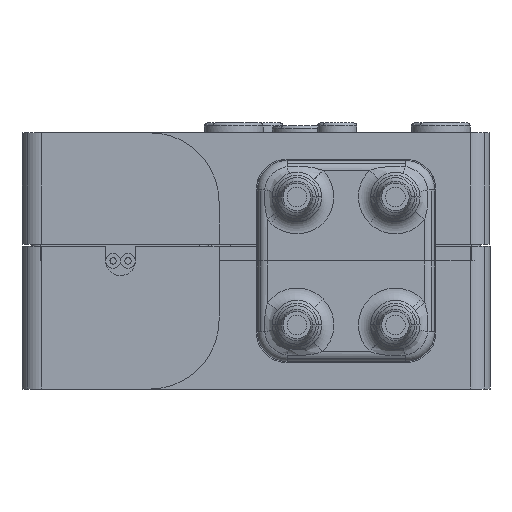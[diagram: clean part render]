
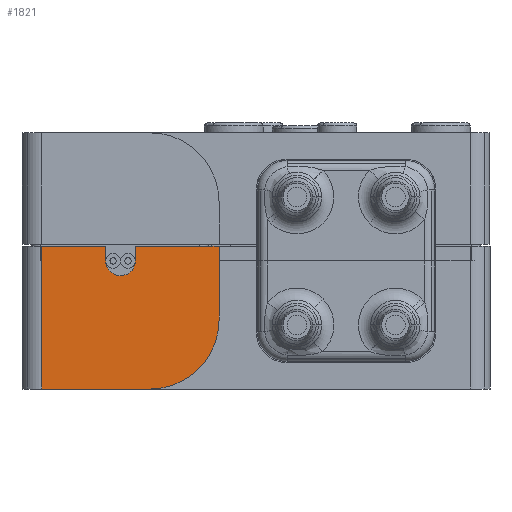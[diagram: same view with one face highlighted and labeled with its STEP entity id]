
A CAD part, front view. The second image highlights one B-rep face of the part: STEP entity #1821.
In plain terms, the highlighted planar face has unit normal (0, -1, 0).
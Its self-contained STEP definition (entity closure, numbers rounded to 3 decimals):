
#55 = CARTESIAN_POINT ( 'NONE',  ( -18.5, -55., 13. ) ) ;
#230 = VECTOR ( 'NONE', #9115, 1000. ) ;
#383 = DIRECTION ( 'NONE',  ( 1., 0., 0. ) ) ;
#742 = CARTESIAN_POINT ( 'NONE',  ( -17., -55., 7.25 ) ) ;
#826 = LINE ( 'NONE', #15376, #9406 ) ;
#1145 = DIRECTION ( 'NONE',  ( 0.707, 0., -0.707 ) ) ;
#1236 = CARTESIAN_POINT ( 'NONE',  ( -20., -55., 7.25 ) ) ;
#1270 = DIRECTION ( 'NONE',  ( 0.707, 0., 0.707 ) ) ;
#1319 = CIRCLE ( 'NONE', #11006, 1.5 ) ;
#1390 = VERTEX_POINT ( 'NONE', #10911 ) ;
#1529 = DIRECTION ( 'NONE',  ( 0., -1., 0. ) ) ;
#1726 = EDGE_CURVE ( 'NONE', #5707, #12605, #6662, .T. ) ;
#1821 = ADVANCED_FACE ( 'NONE', ( #12017 ), #2567, .T. ) ;
#2038 = DIRECTION ( 'NONE',  ( 0., 0., 1. ) ) ;
#2095 = DIRECTION ( 'NONE',  ( 0., 1., 0. ) ) ;
#2278 = EDGE_CURVE ( 'NONE', #16458, #12625, #13547, .T. ) ;
#2436 = LINE ( 'NONE', #1236, #10956 ) ;
#2454 = VECTOR ( 'NONE', #12752, 1000. ) ;
#2458 = EDGE_CURVE ( 'NONE', #1390, #5658, #12707, .T. ) ;
#2492 = EDGE_CURVE ( 'NONE', #5658, #9924, #9686, .T. ) ;
#2542 = VERTEX_POINT ( 'NONE', #15790 ) ;
#2567 = PLANE ( 'NONE',  #15779 ) ;
#3010 = VERTEX_POINT ( 'NONE', #8303 ) ;
#3240 = CARTESIAN_POINT ( 'NONE',  ( -20., -55., 13. ) ) ;
#3329 = EDGE_CURVE ( 'NONE', #12605, #3010, #1319, .T. ) ;
#3438 = CARTESIAN_POINT ( 'NONE',  ( -19.561, -55., 11.939 ) ) ;
#3473 = DIRECTION ( 'NONE',  ( -1., 0., 0. ) ) ;
#3683 = CARTESIAN_POINT ( 'NONE',  ( -18.5, -55., 13. ) ) ;
#3859 = DIRECTION ( 'NONE',  ( 0., -1., 0. ) ) ;
#4780 = LINE ( 'NONE', #11367, #230 ) ;
#5658 = VERTEX_POINT ( 'NONE', #13878 ) ;
#5707 = VERTEX_POINT ( 'NONE', #3240 ) ;
#5845 = CARTESIAN_POINT ( 'NONE',  ( -28.5, -55., 14.5 ) ) ;
#5847 = EDGE_LOOP ( 'NONE', ( #15248, #13874, #9054, #10472, #11356, #16800, #16467, #8439, #7278, #10578, #15149 ) ) ;
#6133 = LINE ( 'NONE', #742, #13091 ) ;
#6662 = CIRCLE ( 'NONE', #14945, 1.5 ) ;
#7215 = LINE ( 'NONE', #11189, #17040 ) ;
#7278 = ORIENTED_EDGE ( 'NONE', *, *, #1726, .F. ) ;
#7382 = EDGE_CURVE ( 'NONE', #9221, #11024, #4780, .T. ) ;
#7489 = EDGE_CURVE ( 'NONE', #2542, #16458, #15608, .T. ) ;
#7567 = DIRECTION ( 'NONE',  ( 0.707, 0., -0.707 ) ) ;
#7599 = CARTESIAN_POINT ( 'NONE',  ( -26.5, -55., 14.5 ) ) ;
#7612 = CARTESIAN_POINT ( 'NONE',  ( -20., -55., 14.5 ) ) ;
#8303 = CARTESIAN_POINT ( 'NONE',  ( -17., -55., 13. ) ) ;
#8439 = ORIENTED_EDGE ( 'NONE', *, *, #3329, .F. ) ;
#8566 = AXIS2_PLACEMENT_3D ( 'NONE', #16920, #2095, #7567 ) ;
#8982 = DIRECTION ( 'NONE',  ( -0.707, 0., -0.707 ) ) ;
#9054 = ORIENTED_EDGE ( 'NONE', *, *, #2492, .F. ) ;
#9115 = DIRECTION ( 'NONE',  ( 1., 0., 0. ) ) ;
#9221 = VERTEX_POINT ( 'NONE', #13371 ) ;
#9406 = VECTOR ( 'NONE', #2038, 1000. ) ;
#9686 = CIRCLE ( 'NONE', #10246, 7. ) ;
#9850 = CARTESIAN_POINT ( 'NONE',  ( -15.5, -55., 0. ) ) ;
#9924 = VERTEX_POINT ( 'NONE', #9850 ) ;
#10246 = AXIS2_PLACEMENT_3D ( 'NONE', #10509, #13023, #1145 ) ;
#10472 = ORIENTED_EDGE ( 'NONE', *, *, #2458, .F. ) ;
#10509 = CARTESIAN_POINT ( 'NONE',  ( -15.5, -55., 7. ) ) ;
#10578 = ORIENTED_EDGE ( 'NONE', *, *, #10683, .T. ) ;
#10683 = EDGE_CURVE ( 'NONE', #5707, #12625, #2436, .T. ) ;
#10911 = CARTESIAN_POINT ( 'NONE',  ( -8.5, -55., 7. ) ) ;
#10921 = EDGE_CURVE ( 'NONE', #9924, #2542, #7215, .T. ) ;
#10956 = VECTOR ( 'NONE', #11812, 1000. ) ;
#11006 = AXIS2_PLACEMENT_3D ( 'NONE', #3683, #3859, #8982 ) ;
#11024 = VERTEX_POINT ( 'NONE', #16393 ) ;
#11189 = CARTESIAN_POINT ( 'NONE',  ( -8.5, -55., 0. ) ) ;
#11356 = ORIENTED_EDGE ( 'NONE', *, *, #16411, .T. ) ;
#11367 = CARTESIAN_POINT ( 'NONE',  ( -28.5, -55., 14.5 ) ) ;
#11812 = DIRECTION ( 'NONE',  ( 0., 0., 1. ) ) ;
#12017 = FACE_OUTER_BOUND ( 'NONE', #5847, .T. ) ;
#12605 = VERTEX_POINT ( 'NONE', #3438 ) ;
#12625 = VERTEX_POINT ( 'NONE', #7612 ) ;
#12626 = EDGE_CURVE ( 'NONE', #9221, #3010, #6133, .T. ) ;
#12707 = CIRCLE ( 'NONE', #8566, 7. ) ;
#12752 = DIRECTION ( 'NONE',  ( 0., 0., 1. ) ) ;
#13023 = DIRECTION ( 'NONE',  ( 0., 1., 0. ) ) ;
#13091 = VECTOR ( 'NONE', #15214, 1000. ) ;
#13371 = CARTESIAN_POINT ( 'NONE',  ( -17., -55., 14.5 ) ) ;
#13547 = LINE ( 'NONE', #5845, #16618 ) ;
#13874 = ORIENTED_EDGE ( 'NONE', *, *, #10921, .F. ) ;
#13878 = CARTESIAN_POINT ( 'NONE',  ( -10.55, -55., 2.05 ) ) ;
#14125 = CARTESIAN_POINT ( 'NONE',  ( -26.5, -55., 0. ) ) ;
#14425 = DIRECTION ( 'NONE',  ( -0.707, 0., -0.707 ) ) ;
#14777 = CARTESIAN_POINT ( 'NONE',  ( -28.5, -55., 0. ) ) ;
#14945 = AXIS2_PLACEMENT_3D ( 'NONE', #55, #1529, #14425 ) ;
#15149 = ORIENTED_EDGE ( 'NONE', *, *, #2278, .F. ) ;
#15214 = DIRECTION ( 'NONE',  ( 0., 0., -1. ) ) ;
#15248 = ORIENTED_EDGE ( 'NONE', *, *, #7489, .F. ) ;
#15376 = CARTESIAN_POINT ( 'NONE',  ( -8.5, -55., 0. ) ) ;
#15608 = LINE ( 'NONE', #14125, #2454 ) ;
#15779 = AXIS2_PLACEMENT_3D ( 'NONE', #14777, #15995, #1270 ) ;
#15790 = CARTESIAN_POINT ( 'NONE',  ( -26.5, -55., 0. ) ) ;
#15995 = DIRECTION ( 'NONE',  ( 0., -1., 0. ) ) ;
#16393 = CARTESIAN_POINT ( 'NONE',  ( -8.5, -55., 14.5 ) ) ;
#16411 = EDGE_CURVE ( 'NONE', #1390, #11024, #826, .T. ) ;
#16458 = VERTEX_POINT ( 'NONE', #7599 ) ;
#16467 = ORIENTED_EDGE ( 'NONE', *, *, #12626, .T. ) ;
#16618 = VECTOR ( 'NONE', #383, 1000. ) ;
#16800 = ORIENTED_EDGE ( 'NONE', *, *, #7382, .F. ) ;
#16920 = CARTESIAN_POINT ( 'NONE',  ( -15.5, -55., 7. ) ) ;
#17040 = VECTOR ( 'NONE', #3473, 1000. ) ;
